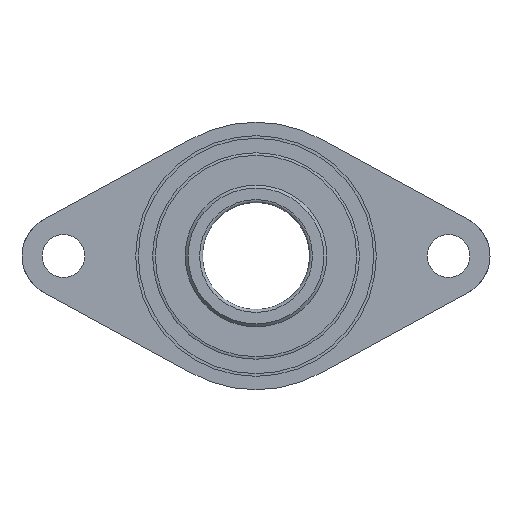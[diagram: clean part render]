
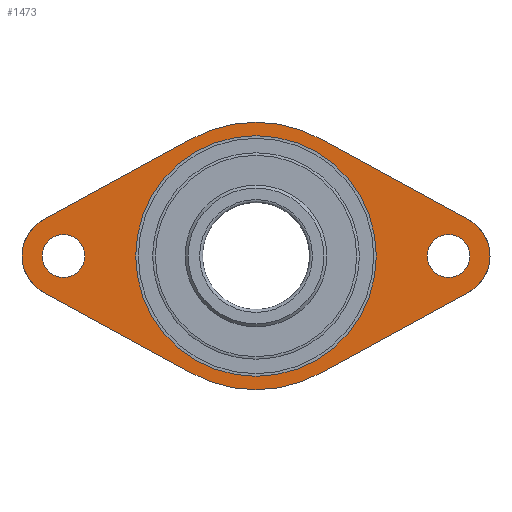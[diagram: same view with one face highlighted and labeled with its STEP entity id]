
A CAD part, left-side view. The second image highlights one B-rep face of the part: STEP entity #1473.
In plain terms, the highlighted planar face has unit normal (-1, 0, 0).
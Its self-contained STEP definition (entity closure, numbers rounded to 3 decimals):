
#141 = CIRCLE ( 'NONE', #1635, 8. ) ;
#182 = CARTESIAN_POINT ( 'NONE',  ( -21., -79.427, -13.605 ) ) ;
#221 = CARTESIAN_POINT ( 'NONE',  ( -21., -72., -8. ) ) ;
#238 = ORIENTED_EDGE ( 'NONE', *, *, #2203, .F. ) ;
#243 = CARTESIAN_POINT ( 'NONE',  ( -21., 0., -45. ) ) ;
#247 = CARTESIAN_POINT ( 'NONE',  ( -21., 72., -8. ) ) ;
#320 = VECTOR ( 'NONE', #1562, 1000. ) ;
#344 = LINE ( 'NONE', #1651, #320 ) ;
#407 = CARTESIAN_POINT ( 'NONE',  ( -21., 79.427, 13.605 ) ) ;
#483 = EDGE_LOOP ( 'NONE', ( #2159 ) ) ;
#519 = FACE_OUTER_BOUND ( 'NONE', #2316, .T. ) ;
#521 = FACE_BOUND ( 'NONE', #2573, .T. ) ;
#528 = FACE_BOUND ( 'NONE', #483, .T. ) ;
#532 = LINE ( 'NONE', #2607, #564 ) ;
#556 = FACE_BOUND ( 'NONE', #650, .T. ) ;
#564 = VECTOR ( 'NONE', #2635, 1000. ) ;
#644 = CIRCLE ( 'NONE', #2024, 15.5 ) ;
#650 = EDGE_LOOP ( 'NONE', ( #891 ) ) ;
#664 = CARTESIAN_POINT ( 'NONE',  ( -21., 23.958, 43.886 ) ) ;
#679 = CIRCLE ( 'NONE', #2073, 50. ) ;
#772 = DIRECTION ( 'NONE',  ( 0., 0., -1. ) ) ;
#777 = DIRECTION ( 'NONE',  ( 1., 0., 0. ) ) ;
#786 = CARTESIAN_POINT ( 'NONE',  ( -21., 0., 0. ) ) ;
#823 = DIRECTION ( 'NONE',  ( 0., 0., -1. ) ) ;
#829 = DIRECTION ( 'NONE',  ( 1., 0., 0. ) ) ;
#834 = CARTESIAN_POINT ( 'NONE',  ( -21., 72., 0. ) ) ;
#860 = DIRECTION ( 'NONE',  ( 0., 0., -1. ) ) ;
#872 = DIRECTION ( 'NONE',  ( 1., 0., 0. ) ) ;
#880 = CARTESIAN_POINT ( 'NONE',  ( -21., -72., 0. ) ) ;
#891 = ORIENTED_EDGE ( 'NONE', *, *, #1926, .T. ) ;
#992 = DIRECTION ( 'NONE',  ( 0., -0.878, 0.479 ) ) ;
#1058 = CARTESIAN_POINT ( 'NONE',  ( -21., 79.427, 13.605 ) ) ;
#1116 = VERTEX_POINT ( 'NONE', #182 ) ;
#1221 = ORIENTED_EDGE ( 'NONE', *, *, #1311, .F. ) ;
#1234 = AXIS2_PLACEMENT_3D ( 'NONE', #786, #777, #772 ) ;
#1255 = AXIS2_PLACEMENT_3D ( 'NONE', #834, #829, #823 ) ;
#1260 = AXIS2_PLACEMENT_3D ( 'NONE', #880, #872, #860 ) ;
#1311 = EDGE_CURVE ( 'E350', #2293, #2153, #679, .T. ) ;
#1352 = VERTEX_POINT ( 'NONE', #2070 ) ;
#1378 = VERTEX_POINT ( 'NONE', #2124 ) ;
#1380 = AXIS2_PLACEMENT_3D ( 'NONE', #2648, #2644, #2638 ) ;
#1382 = EDGE_CURVE ( 'E246', #1702, #1116, #644, .T. ) ;
#1468 = EDGE_CURVE ( 'E376', #1352, #2153, #532, .T. ) ;
#1473 = ADVANCED_FACE ( 'E454', ( #528, #521, #556, #519 ), #2497, .F. ) ;
#1521 = ORIENTED_EDGE ( 'NONE', *, *, #2544, .F. ) ;
#1562 = DIRECTION ( 'NONE',  ( 0., 0.878, 0.479 ) ) ;
#1589 = CARTESIAN_POINT ( 'NONE',  ( -21., -79.427, 13.605 ) ) ;
#1635 = AXIS2_PLACEMENT_3D ( 'NONE', #1976, #2315, #2062 ) ;
#1651 = CARTESIAN_POINT ( 'NONE',  ( -21., -79.427, 13.605 ) ) ;
#1694 = EDGE_CURVE ( 'E240', #1702, #1378, #344, .T. ) ;
#1702 = VERTEX_POINT ( 'NONE', #1589 ) ;
#1729 = ORIENTED_EDGE ( 'NONE', *, *, #1382, .F. ) ;
#1840 = ORIENTED_EDGE ( 'NONE', *, *, #2564, .T. ) ;
#1895 = ORIENTED_EDGE ( 'NONE', *, *, #1694, .T. ) ;
#1926 = EDGE_CURVE ( 'NONE', #2456, #2456, #141, .T. ) ;
#1931 = CARTESIAN_POINT ( 'NONE',  ( -21., 0., 0. ) ) ;
#1941 = DIRECTION ( 'NONE',  ( 1., 0., 0. ) ) ;
#1942 = DIRECTION ( 'NONE',  ( 0., 0., -1. ) ) ;
#1964 = AXIS2_PLACEMENT_3D ( 'NONE', #2388, #2392, #2394 ) ;
#1976 = CARTESIAN_POINT ( 'NONE',  ( -21., 72., 0. ) ) ;
#2024 = AXIS2_PLACEMENT_3D ( 'NONE', #2145, #2148, #2154 ) ;
#2060 = VERTEX_POINT ( 'NONE', #664 ) ;
#2062 = DIRECTION ( 'NONE',  ( 0., 0., -1. ) ) ;
#2070 = CARTESIAN_POINT ( 'NONE',  ( -21., 79.427, -13.605 ) ) ;
#2073 = AXIS2_PLACEMENT_3D ( 'NONE', #1931, #1941, #1942 ) ;
#2124 = CARTESIAN_POINT ( 'NONE',  ( -21., -23.958, 43.886 ) ) ;
#2145 = CARTESIAN_POINT ( 'NONE',  ( -21., -72., 0. ) ) ;
#2148 = DIRECTION ( 'NONE',  ( 1., 0., 0. ) ) ;
#2153 = VERTEX_POINT ( 'NONE', #2889 ) ;
#2154 = DIRECTION ( 'NONE',  ( 0., 0., -1. ) ) ;
#2159 = ORIENTED_EDGE ( 'NONE', *, *, #2218, .T. ) ;
#2203 = EDGE_CURVE ( 'E329', #1116, #2293, #2976, .T. ) ;
#2218 = EDGE_CURVE ( 'NONE', #2445, #2445, #2966, .T. ) ;
#2293 = VERTEX_POINT ( 'NONE', #2399 ) ;
#2315 = DIRECTION ( 'NONE',  ( 1., 0., 0. ) ) ;
#2316 = EDGE_LOOP ( 'NONE', ( #238, #1729, #1895, #2730, #1521, #2408, #2939, #1221 ) ) ;
#2386 = VERTEX_POINT ( 'NONE', #221 ) ;
#2388 = CARTESIAN_POINT ( 'NONE',  ( -21., 0., 0. ) ) ;
#2392 = DIRECTION ( 'NONE',  ( 1., 0., 0. ) ) ;
#2394 = DIRECTION ( 'NONE',  ( 0., 0., -1. ) ) ;
#2399 = CARTESIAN_POINT ( 'NONE',  ( -21., -23.958, -43.886 ) ) ;
#2408 = ORIENTED_EDGE ( 'NONE', *, *, #2585, .F. ) ;
#2445 = VERTEX_POINT ( 'NONE', #243 ) ;
#2456 = VERTEX_POINT ( 'NONE', #247 ) ;
#2497 = PLANE ( 'NONE',  #1964 ) ;
#2544 = EDGE_CURVE ( 'E193', #3003, #2060, #2770, .T. ) ;
#2564 = EDGE_CURVE ( 'NONE', #2386, #2386, #2761, .T. ) ;
#2573 = EDGE_LOOP ( 'NONE', ( #1840 ) ) ;
#2585 = EDGE_CURVE ( 'E382', #1352, #3003, #2757, .T. ) ;
#2597 = EDGE_CURVE ( 'E214', #2060, #1378, #2725, .T. ) ;
#2607 = CARTESIAN_POINT ( 'NONE',  ( -21., 79.427, -13.605 ) ) ;
#2635 = DIRECTION ( 'NONE',  ( 0., -0.878, -0.479 ) ) ;
#2638 = DIRECTION ( 'NONE',  ( 0., 0., -1. ) ) ;
#2644 = DIRECTION ( 'NONE',  ( 1., 0., 0. ) ) ;
#2648 = CARTESIAN_POINT ( 'NONE',  ( -21., 0., 0. ) ) ;
#2725 = CIRCLE ( 'NONE', #1234, 50. ) ;
#2730 = ORIENTED_EDGE ( 'NONE', *, *, #2597, .F. ) ;
#2752 = CARTESIAN_POINT ( 'NONE',  ( -21., -79.427, -13.605 ) ) ;
#2757 = CIRCLE ( 'NONE', #1255, 15.5 ) ;
#2761 = CIRCLE ( 'NONE', #1260, 8. ) ;
#2765 = VECTOR ( 'NONE', #992, 1000. ) ;
#2770 = LINE ( 'NONE', #1058, #2765 ) ;
#2776 = DIRECTION ( 'NONE',  ( 0., 0.878, -0.479 ) ) ;
#2889 = CARTESIAN_POINT ( 'NONE',  ( -21., 23.958, -43.886 ) ) ;
#2939 = ORIENTED_EDGE ( 'NONE', *, *, #1468, .T. ) ;
#2966 = CIRCLE ( 'NONE', #1380, 45. ) ;
#2976 = LINE ( 'NONE', #2752, #2978 ) ;
#2978 = VECTOR ( 'NONE', #2776, 1000. ) ;
#3003 = VERTEX_POINT ( 'NONE', #407 ) ;
